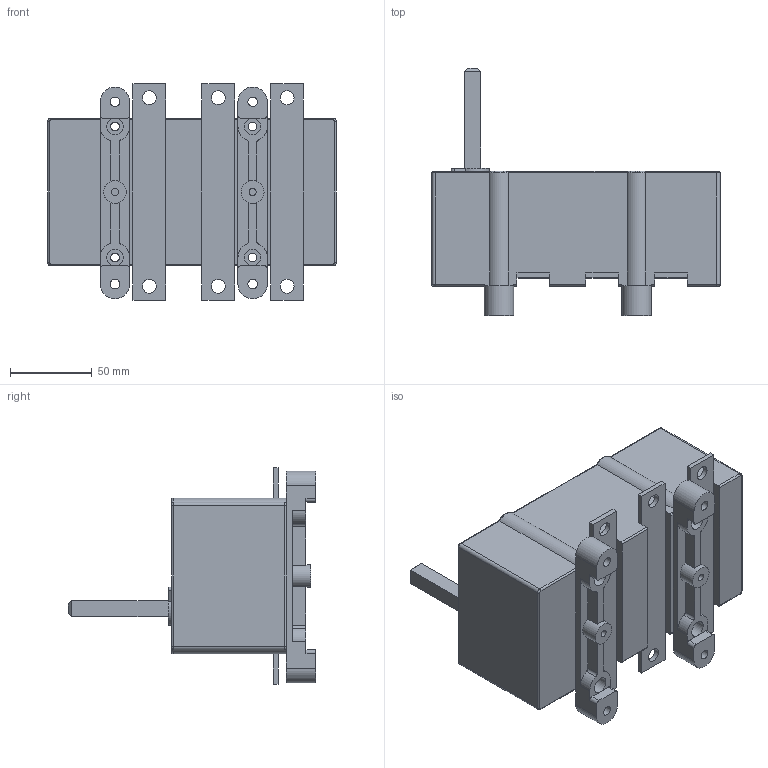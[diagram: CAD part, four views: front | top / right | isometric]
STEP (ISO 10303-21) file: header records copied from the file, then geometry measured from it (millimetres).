
FILE_DESCRIPTION(/* description */ (''),/* implementation_level */ '2;1');
FILE_NAME(/* name */ 'RA160 P3.stp',/* time_stamp */ '2021-08-17T13:39:04+02:00',/* author */ (''),/* organization */ (''),/* preprocessor_version */ 'ST-DEVELOPER v18.1',/* originating_system */ 'SIEMENS PLM Software NX 1965',/* authorisation */ '');
FILE_SCHEMA (('AUTOMOTIVE_DESIGN { 1 0 10303 214 3 1 1 1 }'));
Length unit declared in the file: millimetre
Products named in the file (1): RA160_P3
Bounding box: 176 x 151 x 132 mm (x, y, z)
Volume: 1136017.8 mm3; surface area: 98247.6 mm2
Topology: 1 solids, 1 shells, 202 faces, 534 edges, 347 vertices
Faces by surface type: plane 104, cylinder 86, bspline 8, torus 4
Full cylindrical faces by diameter (mm): 4.3 x2, 5.3 x4, 5.8 x4, 8.5 x6, 10 x8, 14 x2
Entity records: 6368 total; most frequent: CARTESIAN_POINT 1306, DIRECTION 1064, ORIENTED_EDGE 1000, EDGE_CURVE 500, AXIS2_PLACEMENT_3D 377, VERTEX_POINT 334, LINE 310, VECTOR 310
